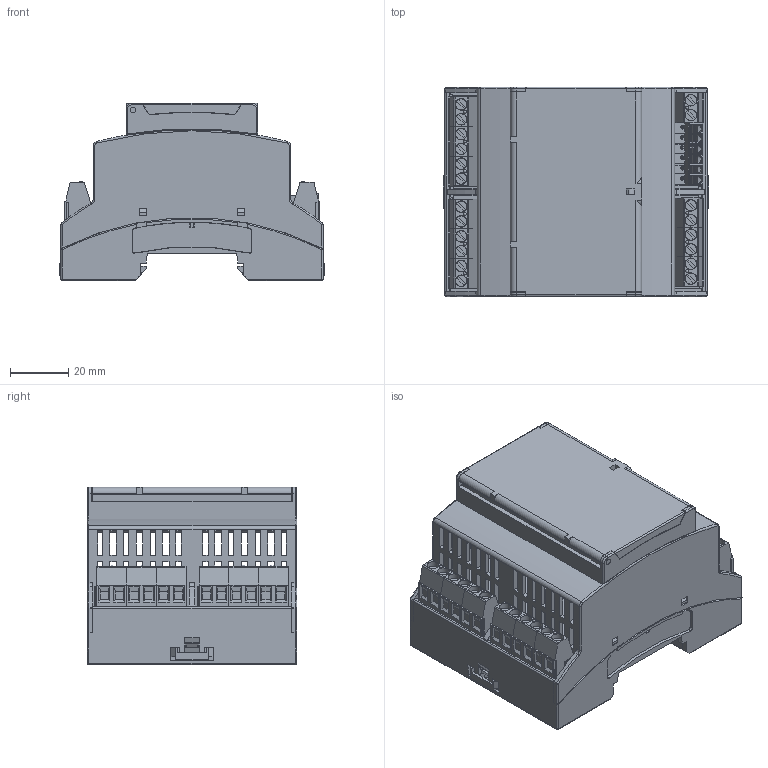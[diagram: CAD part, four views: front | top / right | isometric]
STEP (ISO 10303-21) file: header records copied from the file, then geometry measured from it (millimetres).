
FILE_DESCRIPTION(/* description */ (''),/* implementation_level */ '2;1');
FILE_NAME(/* name */ 'MPA2.step',/* time_stamp */ '2025-06-02T16:28:43+02:00',/* author */ (''),/* organization */ (''),/* preprocessor_version */ 'ST-DEVELOPER v20.1',/* originating_system */ 'Autodesk Translation Framework v14.4.0.0',/* authorisation */ '');
FILE_SCHEMA (('AUTOMOTIVE_DESIGN { 1 0 10303 214 3 1 1 }'));
Products named in the file (26): MPA2; 2896267 v1; 2896267; 2896050 v2; 2896050; 2896128 v1; 2896128; ALF70 1; 1715721; 1715721_1; 1715721_2; _autosave-ALF70_PCB; 1715721_3; 1715721_4; 1715721_5; 1715721_6; 1715721_7; 1715721_8; 1752104 v1; 1752104_1; 1752104 v1 (1); 1752104_1 (1); 1715721_9; 1715721_10; 1752104 v1 (2); 1752104_1 (2)
Assembly tree (34 placements, depth 4):
  MPA2
    2896267 v1
      2896267
    2896050 v2
      2896050
    2896128 v1
      2896128
    ALF70 1
      1715721
        1715721_10
      1715721_1
        1715721_10
      1715721_2
        1715721_10
      _autosave-ALF70_PCB
    1715721_3
      1715721_10
    1715721_4
      1715721_10
    1715721_5
      1715721_10
    1715721_6
      1715721_10
    1715721_7
      1715721_10
    1715721_8
      1715721_10
    1752104 v1
      1752104_1
    1752104 v1 (1)
      1752104_1 (1)
    1715721_9
      1715721_10
    1752104 v1 (2)
      1752104_1 (2)
Bounding box: 91 x 71.6 x 60.7 mm (x, y, z)
Volume: 74102.9 mm3; surface area: 96650 mm2
Topology: 37 solids, 37 shells, 4973 faces, 13713 edges, 9065 vertices
Faces by surface type: plane 3851, cylinder 763, bspline 243, torus 59, cone 39, sphere 18
Full cylindrical faces by diameter (mm): 0.609 x10, 1 x34, 1.025 x12, 1.05 x6, 1.15 x12, 1.199 x9, 1.3 x28, 1.5 x12, 1.65 x9, 2 x4, 2.4 x6, 3 x3, 3.783 x20, 4 x20
Entity records: 147768 total; most frequent: CARTESIAN_POINT 42875, ORIENTED_EDGE 22424, DIRECTION 20203, EDGE_CURVE 11212, LINE 9387, VECTOR 9387, VERTEX_POINT 7400, AXIS2_PLACEMENT_3D 5408
